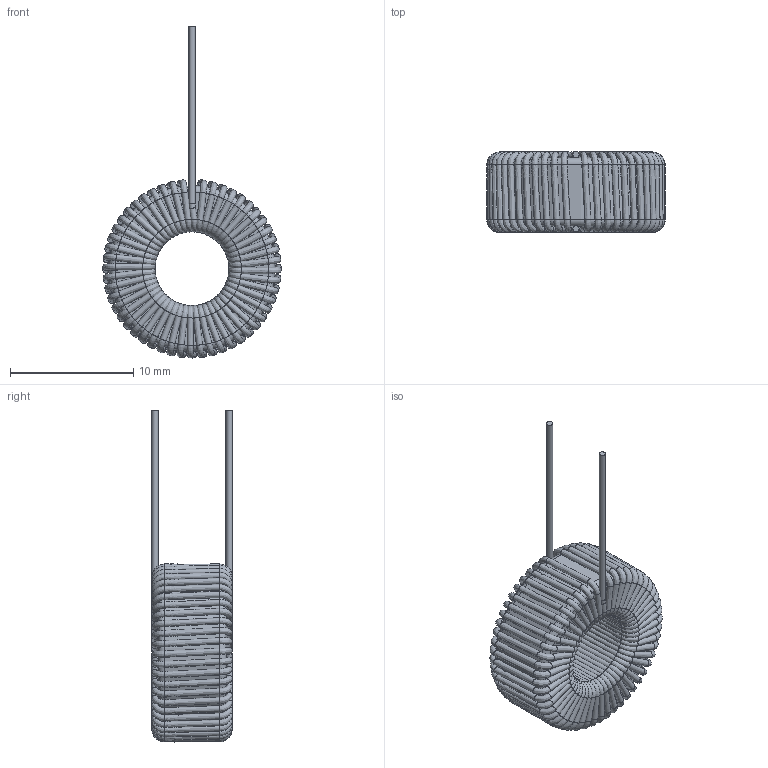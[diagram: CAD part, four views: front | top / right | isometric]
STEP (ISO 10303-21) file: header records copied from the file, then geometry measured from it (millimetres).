
FILE_DESCRIPTION (( 'STEP AP214' ), '1' );
FILE_NAME ('HF127-151-2.4AV REV. B.STEP', '2019-12-18T00:11:04', ( '' ), ( '' ), 'SwSTEP 2.0', 'SolidWorks 2015', '' );
FILE_SCHEMA (( 'AUTOMOTIVE_DESIGN' ));
Length unit declared in the file: inch
Products named in the file (5): HF127-151-2.4AV REV. B; CORE CH127125; 52T Winding_new
Assembly tree (2 placements, depth 2):
  HF127-151-2.4AV REV. B
    52T Winding_new
    CORE CH127125
  CORE CH127125
  52T Winding_new
Bounding box: 14.48 x 6.53 x 26.93 mm (x, y, z)
Volume: 762.1 mm3; surface area: 2081 mm2
Topology: 2 solids, 2 shells, 427 faces, 853 edges, 430 vertices
Faces by surface type: bspline 412, torus 6, cylinder 5, plane 4
Full cylindrical faces by diameter (mm): 0.508 x3, 6.99 x1, 13.46 x1
Entity records: 31305 total; most frequent: CARTESIAN_POINT 25532, DIRECTION 890, ORIENTED_EDGE 852, EDGE_LOOP 852, FACE_OUTER_BOUND 850, AXIS2_PLACEMENT_3D 445, ADVANCED_FACE 427, EDGE_CURVE 426
